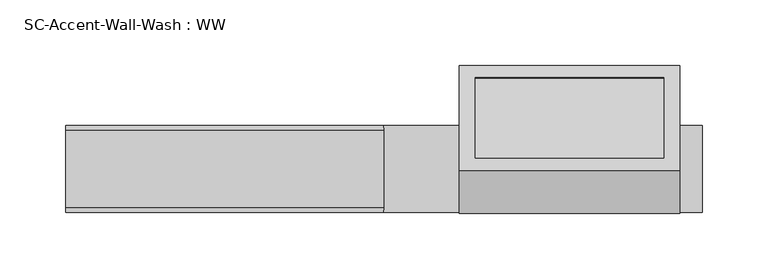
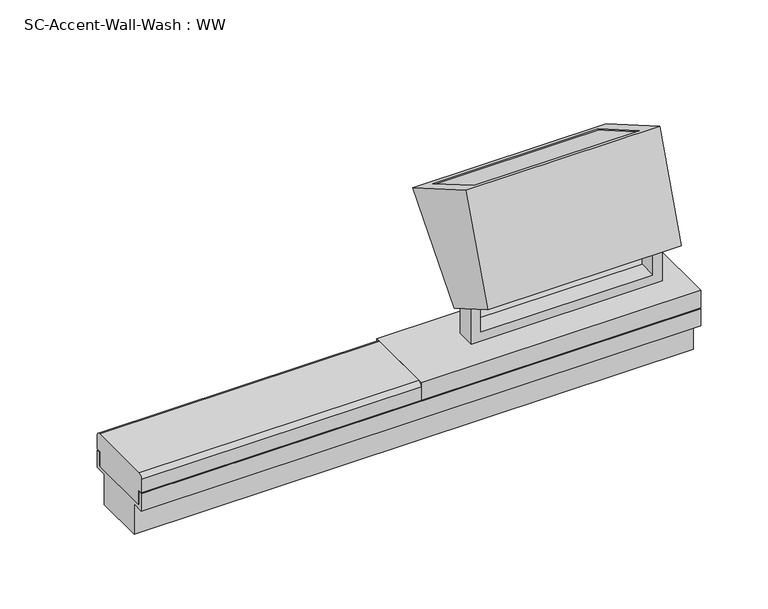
"""IFC4 building model written with IfcOpenShell, lengths in millimetres: light fixture geometry, SC-Accent-Wall-Wash : WW."""

from ifc_helpers import new_model, si_unit, point, frame, frame_2d, origin, place, context, project, spatial, polyline, circle_curve, trimmed, segment, composite_curve, outline, extrude, faceted_brep, source, transform, mapped, element, save


def sc_accent_wall_wash_ww_dae7142a(model_context):
    return source(origin(), model_context, "Body", "SolidModel", [
        faceted_brep([(224.2826348, -33.6350237, 116.7550902), (224.2826348, 15.8583281, 88.1800902), (224.2826348, 78.3479506, 160.0661778), (224.2826348, -1.1628182, 205.9717416), (56.9998223, -33.6350237, 116.7550902), (56.9998223, -1.1628182, 205.9717416), (56.9998223, 78.3479506, 160.0661778), (56.9998223, 15.8583281, 88.1800902), (212.2275567, 8.1268794, 200.6083321), (69.2533379, 8.1268794, 200.6083321), (69.2533379, 69.5639394, 165.137629), (212.2275567, 69.5639394, 165.137629), (212.2275567, 3.5108917, 192.613207), (212.2275567, 64.9479517, 157.1425038), (69.2533379, 64.9479517, 157.1425038), (69.2533379, 3.5108917, 192.613207)], [[[0, 1, 2, 3]], [[4, 5, 6, 7]], [[1, 0, 4, 7]], [[2, 1, 7, 6]], [[3, 2, 6, 5], [8, 9, 10, 11]], [[0, 3, 5, 4]], [[12, 13, 14, 15]], [[12, 15, 9, 8]], [[15, 14, 10, 9]], [[14, 13, 11, 10]], [[13, 12, 8, 11]]]),
        extrude(outline(polyline([(-140.7749382, 0.0), (2.1992806, 0.0), (2.1992806, -70.9414063), (-140.7749382, -70.9414063), (-140.7749382, 0.0)])), frame((71.4526185, 6.583254, 197.9346945), z_axis=(0.0, 0.49999999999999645, 0.8660254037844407), x_axis=(-1.0, 0.0, 0.0)), (0.0, 0.0, 1.0), 2.1403485),
        extrude(outline(polyline([(69.8401471, 57.4996094), (69.8401471, 222.5003906), (114.2901471, 222.5003906), (114.2901471, 214.4636719), (77.8768659, 214.4636719), (77.8768659, 65.5363281), (114.2901471, 65.5363281), (114.2901471, 57.4996094), (69.8401471, 57.4996094)])), frame((0.0, -8.1359375, 0.0), z_axis=(0.0, 1.0, 0.0), x_axis=(0.0, 0.0, 1.0)), (0.0, 0.0, 1.0), 16.271875),
        extrude(outline(composite_curve([segment(polyline([(28.325, 52.8401471), (28.325, 40.4393443), (-28.325, 40.4393443), (-28.325, 52.8401471), (-28.325, 53.975), (-33.02, 53.975), (-33.02, 66.219198)]), True, "CONTINUOUS"), segment(trimmed(circle_curve(frame_2d((-29.3990509, 66.219198)), 3.6209491), [point((-33.02, 66.219198))], [point((-29.3990509, 69.8401471))], False, "CARTESIAN"), True, "CONTINUOUS"), segment(polyline([(-29.3990509, 69.8401471), (29.3990509, 69.8401471)]), True, "CONTINUOUS"), segment(trimmed(circle_curve(frame_2d((29.3990509, 66.219198)), 3.6209491), [point((29.3990509, 69.8401471))], [point((33.02, 66.219198))], False, "CARTESIAN"), True, "CONTINUOUS"), segment(polyline([(33.02, 66.219198), (33.02, 53.975), (28.325, 53.975), (28.325, 52.8401471)]), True, "CONTINUOUS")], self_intersect=False)), frame((-241.3, 0.0, 0.0), z_axis=(1.0, 0.0, 0.0), x_axis=(0.0, 1.0, 0.0)), (0.0, 0.0, 1.0), 241.3),
        extrude(outline(polyline([(-22.225, 37.2643443), (-33.02, 37.2643443), (-33.02, 52.8401471), (-29.845, 52.8401471), (-29.845, 40.4393443), (29.845, 40.4393443), (29.845, 52.8401471), (33.02, 52.8401471), (33.02, 37.2643443), (22.225, 37.2643443), (22.225, 9.4401471), (-22.225, 9.4401471), (-22.225, 37.2643443)])), frame((-241.3, 0.0, 0.0), z_axis=(1.0, 0.0, 0.0), x_axis=(0.0, 1.0, 0.0)), (0.0, 0.0, 1.0), 482.6),
        extrude(outline(polyline([(241.3, 33.02), (241.3, -33.02), (0.0, -33.02), (0.0, 33.02), (241.3, 33.02)])), frame((0.0, 0.0, 53.975), z_axis=(0.0, 0.0, 1.0), x_axis=(1.0, 0.0, 0.0)), (0.0, 0.0, 1.0), 15.8651471),
    ])


if __name__ == "__main__":
    model = new_model("IFC4")
    model_context = context("Model", 3, world=origin())
    ifc_project = project(units=[si_unit("LENGTHUNIT", "METRE", prefix="MILLI")], contexts=[model_context])
    site = spatial("IfcSite", under=ifc_project)
    building = spatial("IfcBuilding", under=site)
    placement = place(None, origin())
    sc_accent_wall_wash_ww_shape = sc_accent_wall_wash_ww_dae7142a(model_context)
    element("IfcLightFixture", 1, ObjectType="SC-Accent-Wall-Wash : WW", at=placement, inside=building, context=model_context, shape_type="MappedRepresentation", body=[
        mapped(sc_accent_wall_wash_ww_shape, transform((0.0, 0.0, 0.0), x_axis=(1.0, 0.0, 0.0), y_axis=(0.0, 1.0, 0.0), z_axis=(0.0, 0.0, 1.0))),
    ])
    save(model, "model.ifc")
